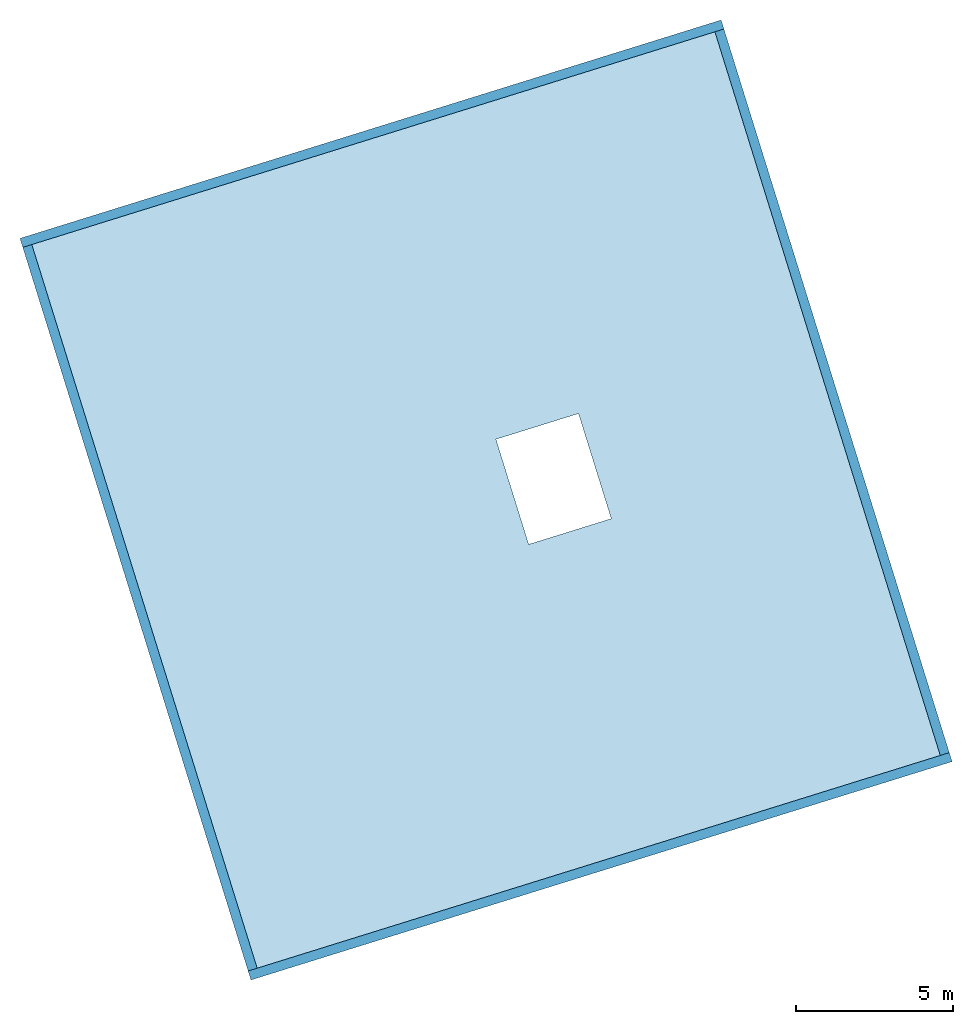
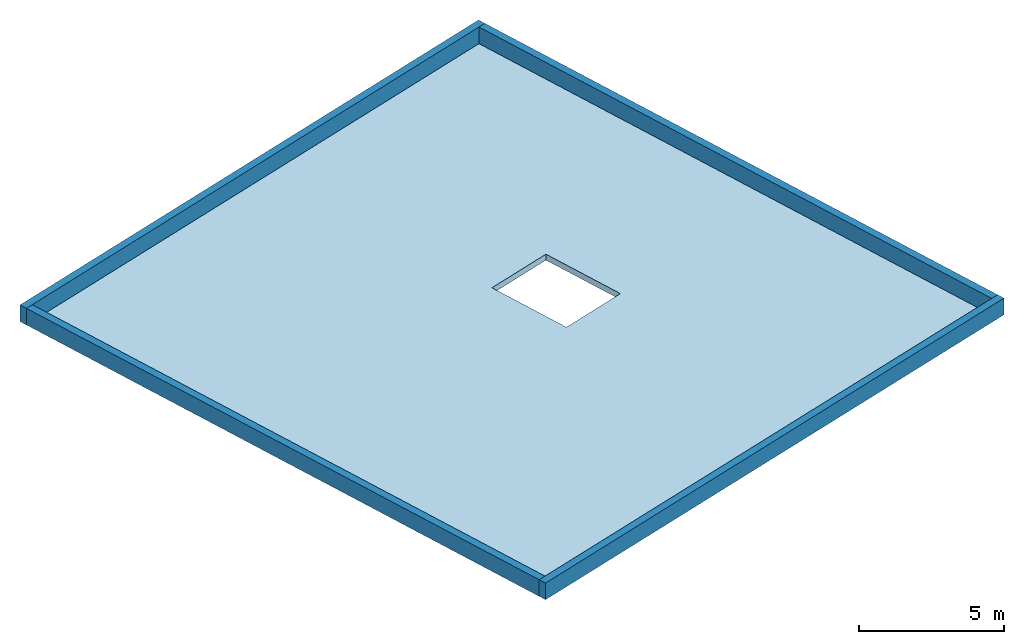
# One storey: 4 walls, 1 slab, 1 opening.
"""IFC4 building model written with IfcOpenShell, lengths in metres."""

import ifcopenshell
import ifcopenshell.guid

model = None  # the IFC model being written
_history = None  # IfcOwnerHistory: only IFC2X3 demands one
_inside = {}  # id of a spatial element -> (the spatial element, [elements in it])
_under = {}  # id of a project, library or spatial element -> (it, [spatial elements below it])
_declared = {}  # id of a project -> (the project, [libraries it declares])
_typed = {}  # id of a type object -> (the type object, [elements of that type])
_made_of = {}  # id of a material, layer set ... -> (it, [elements and type objects made of it])


def new_model(schema):
    """Start an empty IFC model of exactly this schema.

    Asked for "IFC4X3", IfcOpenShell would pick the latest addendum, in which some entities
    have other attributes; the version numbers below select the first issue.
    IFC2X3 requires an IfcOwnerHistory on every rooted entity: one is made here for all.
    """
    global model, _history
    if schema == "IFC4X3":
        model = ifcopenshell.file(schema_version=(4, 3, 0, 0))
    else:
        model = ifcopenshell.file(schema=schema)
    _inside.clear()
    _under.clear()
    _declared.clear()
    _typed.clear()
    _made_of.clear()
    _history = None
    if model.schema == "IFC2X3":
        org = make("IfcOrganization", Name="unknown")
        user = make(
            "IfcPersonAndOrganization",
            ThePerson=make("IfcPerson", FamilyName="unknown"),
            TheOrganization=org,
        )
        app = make(
            "IfcApplication",
            ApplicationDeveloper=org,
            Version="unknown",
            ApplicationFullName="unknown",
            ApplicationIdentifier="unknown",
        )
        _history = make(
            "IfcOwnerHistory",
            OwningUser=user,
            OwningApplication=app,
            ChangeAction="ADDED",
            CreationDate=0,
        )
    return model


def make(cls, **values):
    """One entity of the class cls with the attributes given. An attribute that is None is left unset."""
    return model.create_entity(
        cls, **{name: value for name, value in values.items() if value is not None}
    )


def entity(cls, *values):
    """Any entity or typed value of the class cls, its attributes in the order of the schema. None: left unset."""
    e = model.create_entity(cls)
    for i, value in enumerate(values):
        if value is not None:
            e[i] = value
    return e


def rooted(cls, **values):
    """An entity with a GlobalId (a new one), such as an element, a storey or a relation."""
    return make(cls, GlobalId=ifcopenshell.guid.new(), OwnerHistory=_history, **values)


def si_unit(unit_type, name, prefix=None):
    """IfcSIUnit, for example si_unit("LENGTHUNIT", "METRE", prefix="MILLI")."""
    return make("IfcSIUnit", UnitType=unit_type, Prefix=prefix, Name=name)


def converted_unit(unit_type, name, factor, base, dimensions=None, offset=None):
    """IfcConversionBasedUnit, such as the inch: factor (a typed value) times the base unit."""
    return make(
        "IfcConversionBasedUnit"
        if offset is None
        else "IfcConversionBasedUnitWithOffset",
        ConversionOffset=offset,
        Dimensions=None
        if dimensions is None
        else entity("IfcDimensionalExponents", *dimensions),
        UnitType=unit_type,
        Name=name,
        ConversionFactor=make(
            "IfcMeasureWithUnit", ValueComponent=factor, UnitComponent=base
        ),
    )


def assignment(units):
    """IfcUnitAssignment: the units of a project."""
    return None if units is None else make("IfcUnitAssignment", Units=units)


def point(xyz):
    """IfcCartesianPoint."""
    return None if xyz is None else make("IfcCartesianPoint", Coordinates=xyz)


def direction(xyz):
    """IfcDirection."""
    return None if xyz is None else make("IfcDirection", DirectionRatios=xyz)


def frame(location, z_axis=None, x_axis=None):
    """IfcAxis2Placement3D, a coordinate frame: its origin and axes. An axis left out is left unset."""
    return make(
        "IfcAxis2Placement3D",
        Location=point(location),
        Axis=direction(z_axis),
        RefDirection=direction(x_axis),
    )


def origin():
    """The frame at (0, 0, 0) with its axes left unset."""
    return frame((0.0, 0.0, 0.0))


def place(relative_to, where):
    """IfcLocalPlacement: puts the frame where relative to a parent placement (None: the world)."""
    return make(
        "IfcLocalPlacement", PlacementRelTo=relative_to, RelativePlacement=where
    )


def context(
    kind, dimensions, precision=None, world=None, true_north=None, identifier=None
):
    """IfcGeometricRepresentationContext, for example the 3D "Model" context."""
    return make(
        "IfcGeometricRepresentationContext",
        ContextIdentifier=identifier,
        ContextType=kind,
        CoordinateSpaceDimension=dimensions,
        Precision=precision,
        WorldCoordinateSystem=world,
        TrueNorth=true_north,
    )


def subcontext(parent, identifier, kind, view, scale=None):
    """IfcGeometricRepresentationSubContext, for example "Body" below "Model"."""
    return make(
        "IfcGeometricRepresentationSubContext",
        ContextIdentifier=identifier,
        ContextType=kind,
        ParentContext=parent,
        TargetScale=scale,
        TargetView=view,
    )


def project(units=None, contexts=None):
    """IfcProject with its units and contexts."""
    return rooted(
        "IfcProject",
        Name="project",
        RepresentationContexts=contexts,
        UnitsInContext=assignment(units),
    )


def spatial(cls, under=None, at=None, **own):
    """A site, building, storey or space (cls), placed at a placement, below another one or the project."""
    s = rooted(cls, ObjectPlacement=at, **own)
    if under is not None:
        _under.setdefault(under.id(), (under, []))[1].append(s)
    return s


def point_list(points):
    """IfcCartesianPointList2D or 3D."""
    cls = (
        "IfcCartesianPointList2D" if len(points[0]) == 2 else "IfcCartesianPointList3D"
    )
    return make(cls, CoordList=points)


def indexed_curve(points, segments=None, self_intersect=None):
    """IfcIndexedPolyCurve: lines and arcs through numbered points (the first is 1)."""
    return make(
        "IfcIndexedPolyCurve",
        Points=point_list(points),
        Segments=segments,
        SelfIntersect=self_intersect,
    )


def outline(outer, holes=None, kind="AREA"):
    """IfcArbitraryClosedProfileDef: a profile drawn as a closed curve; with holes, ...WithVoids."""
    if holes is None:
        return make("IfcArbitraryClosedProfileDef", ProfileType=kind, OuterCurve=outer)
    return make(
        "IfcArbitraryProfileDefWithVoids",
        ProfileType=kind,
        OuterCurve=outer,
        InnerCurves=holes,
    )


def extrude(swept, where, along, depth):
    """IfcExtrudedAreaSolid: the profile swept, set in the frame where, extruded along a direction by depth."""
    return make(
        "IfcExtrudedAreaSolid",
        SweptArea=swept,
        Position=where,
        ExtrudedDirection=direction(along),
        Depth=depth,
    )


def shape(context_of_items, identifier, shape_type, items):
    """IfcShapeRepresentation: the items that make up one representation, for example the "Body"."""
    return make(
        "IfcShapeRepresentation",
        ContextOfItems=context_of_items,
        RepresentationIdentifier=identifier,
        RepresentationType=shape_type,
        Items=items,
    )


def material(Name=None, Category=None):
    """IfcMaterial."""
    return make("IfcMaterial", Name=Name, Category=Category)


def made_of(thing, what):
    """Note that an element or type object is made of a material, layer set ...; save() writes the relation."""
    if what is not None:
        _made_of.setdefault(what.id(), (what, []))[1].append(thing)
    return thing


def type_object(cls, material=None, **own):
    """A type object (cls), such as IfcWallType, which elements share."""
    return made_of(rooted(cls, **own), material)


def element(
    cls,
    number,
    at=None,
    inside=None,
    cuts=None,
    type_object=None,
    material=None,
    context=None,
    identifier="Body",
    shape_type=None,
    held_by="IfcProductDefinitionShape",
    body=None,
    shapes=None,
    **own,
):
    """One element of the class cls, such as IfcWall. Its Tag is "e" and its number.

    at: its placement. inside: the storey or other place that contains it. cuts: it is an
    opening in that element (IfcRelVoidsElement). A single representation is given by context,
    identifier, shape_type and body (its items); several are given by shapes. held_by: the class
    of the entity that holds the representations. save() writes the other relations.
    """
    e = rooted(cls, Tag="e%d" % number, ObjectPlacement=at, **own)
    if body is not None:
        shapes = [shape(context, identifier, shape_type, body)]
    if shapes is not None:
        e.Representation = make(held_by, Representations=shapes)
    if inside is not None:
        _inside.setdefault(inside.id(), (inside, []))[1].append(e)
    if cuts is not None:
        rooted(
            "IfcRelVoidsElement", RelatingBuildingElement=cuts, RelatedOpeningElement=e
        )
    if type_object is not None:
        _typed.setdefault(type_object.id(), (type_object, []))[1].append(e)
    return made_of(e, material)


def aggregate(whole, parts):
    """IfcRelAggregates: a whole, such as a stair, and the parts it consists of."""
    return rooted("IfcRelAggregates", RelatingObject=whole, RelatedObjects=parts)


def save(model, path):
    """Write the relations noted so far, then the file.

    IfcRelAggregates (storeys below a building ...), IfcRelContainedInSpatialStructure (elements
    in a storey), IfcRelDefinesByType, IfcRelAssociatesMaterial and IfcRelDeclares: one each for
    every whole, place, type object, material and project.
    """
    for whole, parts in _under.values():
        aggregate(whole, parts)
    for where, things in _inside.values():
        rooted(
            "IfcRelContainedInSpatialStructure",
            RelatedElements=things,
            RelatingStructure=where,
        )
    for kind, things in _typed.values():
        rooted("IfcRelDefinesByType", RelatedObjects=things, RelatingType=kind)
    for what, things in _made_of.values():
        rooted("IfcRelAssociatesMaterial", RelatedObjects=things, RelatingMaterial=what)
    for by, libraries in _declared.values():
        rooted("IfcRelDeclares", RelatingContext=by, RelatedDefinitions=libraries)
    model.write(path)


model = new_model("IFC4")

# Units and contexts
model_context = context("Model", 3, precision=1e-05, world=origin(), true_north=direction((6.12323399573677e-17, 1.0)))
body_context = subcontext(model_context, "Body", "Model", "MODEL_VIEW")
ifc_project = project(units=[si_unit("LENGTHUNIT", "METRE"), si_unit("AREAUNIT", "SQUARE_METRE"), si_unit("VOLUMEUNIT", "CUBIC_METRE"), converted_unit("PLANEANGLEUNIT", "DEGREE", entity("IfcPlaneAngleMeasure", 0.0174532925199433), si_unit("PLANEANGLEUNIT", "RADIAN"), dimensions=[0, 0, 0, 0, 0, 0, 0])], contexts=[model_context])

# Site, building, storey
site_placement = place(None, frame((13.1347999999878, 11.9886000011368, 0.0), z_axis=(0.0, 0.0, 1.0), x_axis=(0.954770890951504, 0.297342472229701, 0.0)))
site = spatial("IfcSite", under=ifc_project, at=site_placement, Name="Schiehaven", CompositionType="ELEMENT")
building_placement = place(site_placement, origin())
building = spatial("IfcBuilding", under=site, at=building_placement, Name="VORM huis", CompositionType="ELEMENT")
storey_placement = place(building_placement, frame((0.0, 0.0, 27.9)))
storey = spatial("IfcBuildingStorey", under=building, at=storey_placement, Name="09 negende verdieping", CompositionType="ELEMENT", Elevation=27.9)

# Slab, opening
ifc_material_1 = material(Name="beton_gewapend_ihw", Category="Miscellaneous")
slab_type = type_object("IfcSlabType", Name="Floor:28_FL_skelet_dakvloer 250mm", PredefinedType="ROOF", material=ifc_material_1)
slab_placement = place(storey_placement, origin())
slab = element("IfcSlab", 1, at=slab_placement, inside=storey, type_object=slab_type, material=ifc_material_1, Name="Dakvloer", ObjectType="Vloer", PredefinedType="ROOF", context=body_context, shape_type="SweptSolid", body=[
    extrude(outline(indexed_curve([(-12.05, -11.375), (12.05, -11.375), (12.05, 11.375), (-12.05, 11.375), (-12.05, -11.375)], self_intersect=False), holes=[indexed_curve([(1.75000000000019, 3.62500000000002), (1.75000000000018, 0.875000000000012), (-1.74999999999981, 0.875000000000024), (-1.7499999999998, 3.62500000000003), (1.75000000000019, 3.62500000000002)], self_intersect=False)]), frame((68.7500000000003, 17.0499999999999, -0.249999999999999), z_axis=(0.0, 0.0, 1.0), x_axis=(0.0, -1.0, 0.0)), (0.0, 0.0, 1.0), 0.249999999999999),
])
opening_placement = place(slab_placement, origin())
element("IfcOpeningElement", 2, at=opening_placement, cuts=slab, Name="Dakvloer", PredefinedType="OPENING", context=body_context, shape_type="SweptSolid", body=[
    extrude(outline(indexed_curve([(-1.75, -1.375), (1.75, -1.375), (1.75, 1.37500000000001), (-1.75, 1.37500000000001), (-1.75, -1.375)], self_intersect=False)), frame((71.0, 17.0499999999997, -0.249999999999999), z_axis=(0.0, 0.0, 1.0), x_axis=(0.0, 1.0, 0.0)), (0.0, 0.0, 1.0), 0.249999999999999),
])

# Walls
ifc_material_2 = material(Name="ntb_ntb_ntb", Category="Miscellaneous")
wall_type = type_object("IfcWallType", Name="Basic Wall: 300mm_gen", PredefinedType="STANDARD")
wall_1_placement = place(storey_placement, frame((80.2750000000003, 5.0, 0.0), z_axis=(0.0, 0.0, 1.0), x_axis=(0.0, 1.0, 0.0)))
element("IfcWall", 3, at=wall_1_placement, inside=storey, type_object=wall_type, material=ifc_material_2, Name="Gevelwand", ObjectType="Wand", PredefinedType="NOTDEFINED", context=body_context, shape_type="SweptSolid", body=[
    extrude(outline(indexed_curve([(24.1, 0.149999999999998), (-2.00919352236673e-16, 0.150000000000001), (2.00919352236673e-16, -0.150000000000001), (24.1, -0.150000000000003), (24.1, 0.149999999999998)], self_intersect=False)), origin(), (0.0, 0.0, 1.0), 0.699999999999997),
])
wall_2_placement = place(storey_placement, frame((57.0750000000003, 4.84999999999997, 0.0)))
element("IfcWall", 4, at=wall_2_placement, inside=storey, type_object=wall_type, material=ifc_material_2, Name="Gevelwand", ObjectType="Wand", PredefinedType="NOTDEFINED", context=body_context, shape_type="SweptSolid", body=[
    extrude(outline(indexed_curve([(23.3500000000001, 0.15), (-2.00919352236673e-16, 0.15), (2.00919352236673e-16, -0.15), (23.3500000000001, -0.15), (23.3500000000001, 0.15)], self_intersect=False)), origin(), (0.0, 0.0, 1.0), 0.699999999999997),
])
wall_3_placement = place(storey_placement, frame((57.2250000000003, 29.0999999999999, 0.0), z_axis=(0.0, 0.0, 1.0), x_axis=(0.0, -1.0, 0.0)))
element("IfcWall", 5, at=wall_3_placement, inside=storey, type_object=wall_type, material=ifc_material_2, Name="Gevelwand", ObjectType="Wand", PredefinedType="NOTDEFINED", context=body_context, shape_type="SweptSolid", body=[
    extrude(outline(indexed_curve([(24.1, 0.15), (-2.14233292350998e-16, 0.150000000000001), (2.14233292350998e-16, -0.150000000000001), (24.1, -0.150000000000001), (24.1, 0.15)], self_intersect=False)), origin(), (0.0, 0.0, 1.0), 0.699999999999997),
])
wall_4_placement = place(storey_placement, frame((80.4250000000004, 29.2499999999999, 0.0), z_axis=(0.0, 0.0, 1.0), x_axis=(-1.0, 0.0, 0.0)))
element("IfcWall", 6, at=wall_4_placement, inside=storey, type_object=wall_type, material=ifc_material_2, Name="Gevelwand", ObjectType="Wand", PredefinedType="NOTDEFINED", context=body_context, shape_type="SweptSolid", body=[
    extrude(outline(indexed_curve([(23.3500000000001, 0.150000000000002), (-2.00919352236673e-16, 0.150000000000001), (2.00919352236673e-16, -0.150000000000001), (23.3500000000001, -0.15), (23.3500000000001, 0.150000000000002)], self_intersect=False)), origin(), (0.0, 0.0, 1.0), 0.699999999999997),
])

save(model, "model.ifc")
